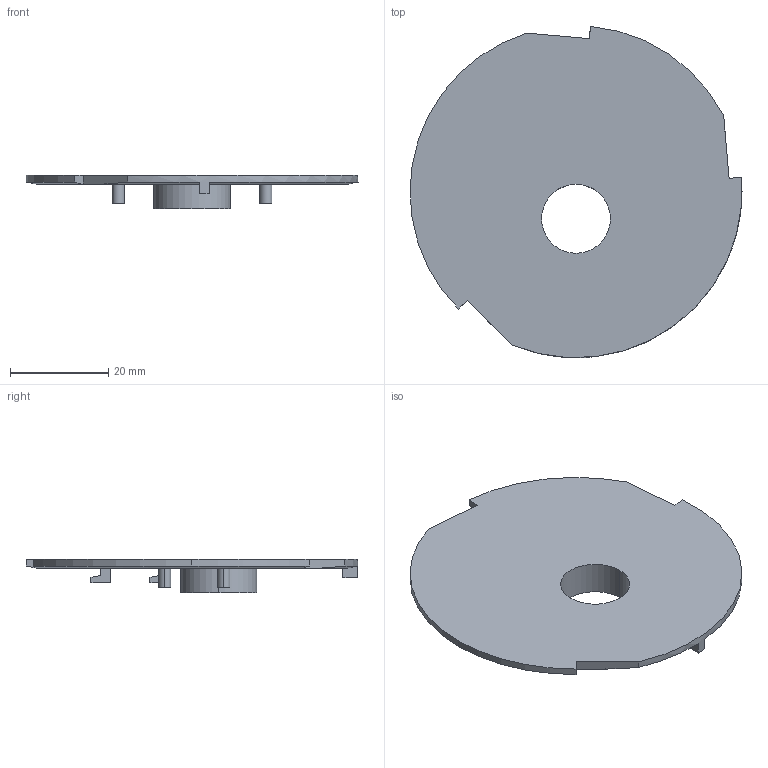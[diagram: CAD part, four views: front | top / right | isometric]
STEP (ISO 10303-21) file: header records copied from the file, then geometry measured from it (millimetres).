
FILE_DESCRIPTION (( 'STEP AP203' ), '1' );
FILE_NAME ('Einlegescheibe.STEP', '2020-12-03T12:38:04', ( '' ), ( '' ), 'SwSTEP 2.0', 'SolidWorks 2020', '' );
FILE_SCHEMA (( 'CONFIG_CONTROL_DESIGN' ));
Length unit declared in the file: millimetre
Products named in the file (1): Einlegescheibe
Bounding box: 67.5 x 67.34 x 6.8 mm (x, y, z)
Volume: 6325.5 mm3; surface area: 7864.1 mm2
Topology: 1 solids, 1 shells, 52 faces, 129 edges, 86 vertices
Faces by surface type: plane 31, cylinder 16, cone 5
Entity records: 1639 total; most frequent: CARTESIAN_POINT 283, DIRECTION 270, ORIENTED_EDGE 258, EDGE_CURVE 129, AXIS2_PLACEMENT_3D 93, VERTEX_POINT 86, VECTOR 84, LINE 84
